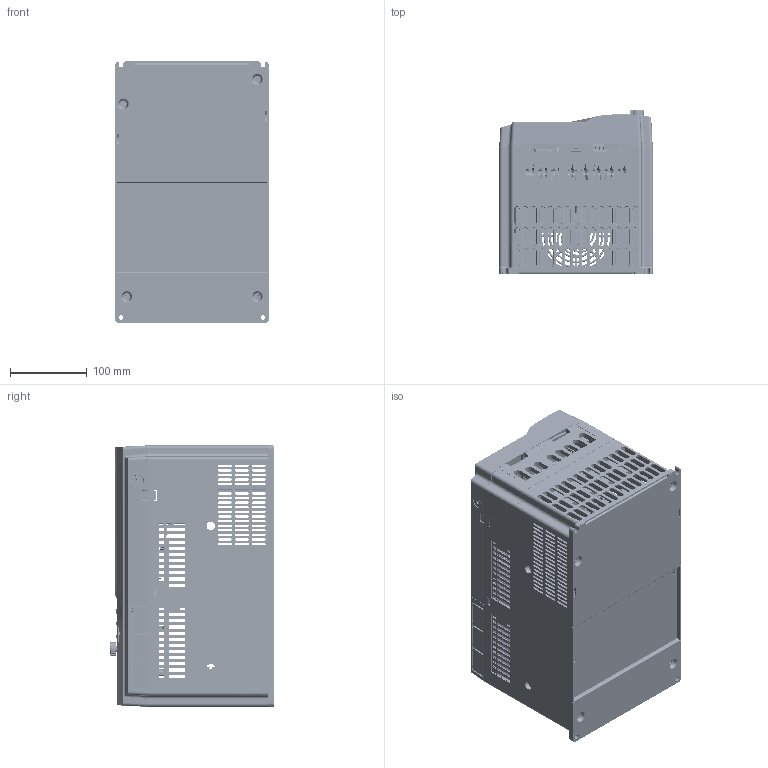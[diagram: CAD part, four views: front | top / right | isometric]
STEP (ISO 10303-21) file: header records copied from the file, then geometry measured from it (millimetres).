
FILE_DESCRIPTION((''),'2;1');
FILE_NAME('GD290-030G037P-4_ASM','2025-04-10T09:57:27',('Administrator'),(''),'CREO PARAMETRIC BY PTC INC, 2019080','CREO PARAMETRIC BY PTC INC, 2019080','');
FILE_SCHEMA(('CONFIG_CONTROL_DESIGN'));
Products named in the file (39): 80740186_1_1_1_1; 80740185_1_1_1_1; 80810111_1_1_1_1; 80810111SY2_1_1_1_1; 80810111SY2_ASM_1_ASM_1_ASM_1_A_ASM; 80810207_1_1_1_1; 80310325_1_1_1_1; 80780080_1_1_1_1; 80880501_1_1_1_1_1; 80880501_1_2_1_1_1; 80880501_1_3_1_1_1; 80880501_1_4_1_1_1; 80880501_1_ASM_1_ASM_1_ASM_1_ASM; 17003-04158_ASM_1_1_1_1; 80740293_1_1_1_1; ADMIE46EZUVL_1_1_1_1_1; ADMIE46EZUVL_2_1_1_1_1; ADMIE46EZUVL_ASM_1_ASM_1_ASM_1__ASM; 00-DUANZIZUJIAN-ASM_ASM_1_ASM_1_ASM; GTNR-25-6_1_1_1_1; 17003-04158-ASM_ASM_1_ASM_1_ASM_ASM; 17003-03893_1_1_1_1; E-DIN0209-5_08MM-10_16MM-TMB_1_; E-DIN0203-5_08MM-TA_1_1_1_1; E-MJ0204-R_1_1_1_1; 17003-03893_ASM_1_ASM_1_ASM_1_A_ASM; GD270-037-4-ES_ASM_1_ASM_1_ASM__ASM; 80740011_1_1_1_1; 80740157_1_1_1_1; 88170000JP_1_1_1_1; JP-NEW-PCB_1_1_1_1; DIANWEIQI_1_1_1_1; 80740014_1_1_1_1; GD300-NEW-JP_ASM_1_ASM_1_ASM_1__ASM; 80310401_1_1_1_1; GD270-037-4_ASM_1_ASM_1_ASM_1_A_ASM; GD270-037-4_ASM_ASM_1_ASM_1_ASM_ASM; GD270-037-4_ASM_1_ASM_1_ASM; GD290-030G037P-4_ASM
Assembly tree (54 placements, depth 9):
  GD290-030G037P-4_ASM
    GD270-037-4_ASM_1_ASM_1_ASM
      GD270-037-4_ASM_ASM_1_ASM_1_ASM_ASM
        GD270-037-4_ASM_1_ASM_1_ASM_1_A_ASM
          80740186_1_1_1_1
          80740185_1_1_1_1
          80810111SY2_ASM_1_ASM_1_ASM_1_A_ASM
            80810111_1_1_1_1
            80810111SY2_1_1_1_1
          80810207_1_1_1_1
          80310325_1_1_1_1
          80780080_1_1_1_1
          80880501_1_ASM_1_ASM_1_ASM_1_ASM
            80880501_1_1_1_1_1
            80880501_1_2_1_1_1
            80880501_1_3_1_1_1
            80880501_1_4_1_1_1
          GD270-037-4-ES_ASM_1_ASM_1_ASM__ASM
            17003-04158-ASM_ASM_1_ASM_1_ASM_ASM
              17003-04158_ASM_1_1_1_1
              00-DUANZIZUJIAN-ASM_ASM_1_ASM_1_ASM
                80740293_1_1_1_1
                ADMIE46EZUVL_ASM_1_ASM_1_ASM_1__ASM  x9
                  ADMIE46EZUVL_1_1_1_1_1
                  ADMIE46EZUVL_2_1_1_1_1
              GTNR-25-6_1_1_1_1  x9
            17003-03893_ASM_1_ASM_1_ASM_1_A_ASM
              17003-03893_1_1_1_1
              E-DIN0209-5_08MM-10_16MM-TMB_1_
              E-DIN0203-5_08MM-TA_1_1_1_1
              E-MJ0204-R_1_1_1_1
          GD300-NEW-JP_ASM_1_ASM_1_ASM_1__ASM
            80740011_1_1_1_1
            80740157_1_1_1_1
            88170000JP_1_1_1_1
            JP-NEW-PCB_1_1_1_1
            DIANWEIQI_1_1_1_1
            80740014_1_1_1_1
          80310401_1_1_1_1
Bounding box: 200 x 213.4 x 340.95 mm (x, y, z)
Volume: 1348106.3 mm3; surface area: 1351119.9 mm2
Topology: 48 solids, 48 shells, 12879 faces, 36963 edges, 24342 vertices
Faces by surface type: plane 8346, cylinder 2879, torus 817, cone 386, bspline 261, extrusion 164, sphere 26
Entity records: 361452 total; most frequent: CARTESIAN_POINT 89746, ORIENTED_EDGE 59154, DIRECTION 53296, EDGE_CURVE 29577, VECTOR 19658, LINE 19494, VERTEX_POINT 19474, AXIS2_PLACEMENT_3D 16819
